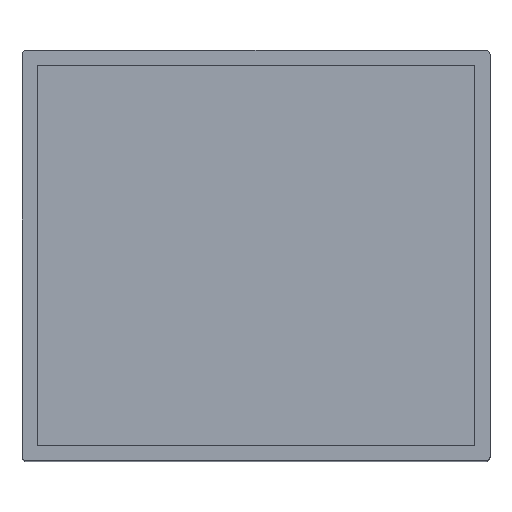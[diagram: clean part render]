
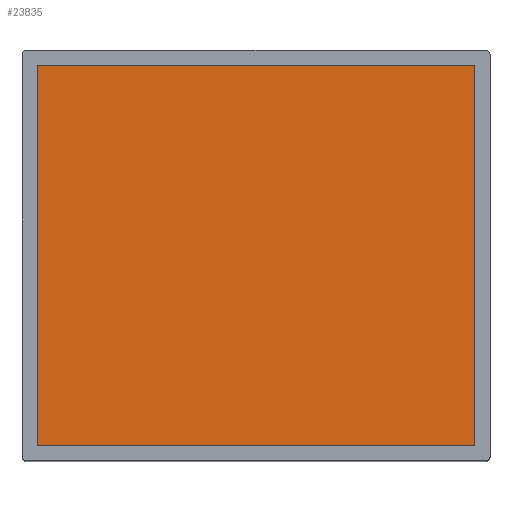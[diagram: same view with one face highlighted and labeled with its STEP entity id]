
A CAD part, top view. The second image highlights one B-rep face of the part: STEP entity #23835.
In plain terms, the highlighted planar face has unit normal (0, 0, 1) as drawn and (0, 0, -1) by its records, which use the part's own axes.
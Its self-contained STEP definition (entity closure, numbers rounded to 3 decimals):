
#2001 = CARTESIAN_POINT ( 'NONE',  ( -14.5, 12.6, 0.4 ) ) ;
#2292 = DIRECTION ( 'NONE',  ( 1., 0., 0. ) ) ;
#4649 = ORIENTED_EDGE ( 'NONE', *, *, #6113, .T. ) ;
#4949 = VERTEX_POINT ( 'NONE', #21580 ) ;
#6113 = EDGE_CURVE ( 'NONE', #6935, #27292, #10804, .T. ) ;
#6935 = VERTEX_POINT ( 'NONE', #18174 ) ;
#8601 = ORIENTED_EDGE ( 'NONE', *, *, #9858, .T. ) ;
#9858 = EDGE_CURVE ( 'NONE', #4949, #6935, #20373, .T. ) ;
#10435 = CARTESIAN_POINT ( 'NONE',  ( -14.5, 12.6, 0.4 ) ) ;
#10804 = LINE ( 'NONE', #22399, #16329 ) ;
#11672 = CARTESIAN_POINT ( 'NONE',  ( 14.5, 12.6, 0.4 ) ) ;
#12574 = DIRECTION ( 'NONE',  ( 1., 0., 0. ) ) ;
#12625 = ORIENTED_EDGE ( 'NONE', *, *, #19391, .T. ) ;
#12794 = DIRECTION ( 'NONE',  ( 0., 1., 0. ) ) ;
#12899 = VERTEX_POINT ( 'NONE', #2001 ) ;
#13851 = CARTESIAN_POINT ( 'NONE',  ( 14.5, -12.6, 0.4 ) ) ;
#14099 = VECTOR ( 'NONE', #23126, 1000. ) ;
#15245 = ORIENTED_EDGE ( 'NONE', *, *, #21790, .T. ) ;
#16329 = VECTOR ( 'NONE', #24750, 1000. ) ;
#18174 = CARTESIAN_POINT ( 'NONE',  ( 14.5, -12.6, 0.4 ) ) ;
#19391 = EDGE_CURVE ( 'NONE', #12899, #4949, #23080, .T. ) ;
#19606 = CARTESIAN_POINT ( 'NONE',  ( 14.5, 12.6, 0.4 ) ) ;
#19826 = EDGE_LOOP ( 'NONE', ( #8601, #4649, #15245, #12625 ) ) ;
#20373 = LINE ( 'NONE', #13851, #14099 ) ;
#21580 = CARTESIAN_POINT ( 'NONE',  ( 14.5, 12.6, 0.4 ) ) ;
#21746 = FACE_OUTER_BOUND ( 'NONE', #19826, .T. ) ;
#21790 = EDGE_CURVE ( 'NONE', #27292, #12899, #29901, .T. ) ;
#22399 = CARTESIAN_POINT ( 'NONE',  ( -14.5, -12.6, 0.4 ) ) ;
#22877 = AXIS2_PLACEMENT_3D ( 'NONE', #11672, #23423, #2292 ) ;
#23080 = LINE ( 'NONE', #19606, #28582 ) ;
#23126 = DIRECTION ( 'NONE',  ( 0., -1., 0. ) ) ;
#23423 = DIRECTION ( 'NONE',  ( 0., 0., 1. ) ) ;
#23835 = ADVANCED_FACE ( 'NONE', ( #21746 ), #30496, .F. ) ;
#24503 = CARTESIAN_POINT ( 'NONE',  ( -14.5, -12.6, 0.4 ) ) ;
#24750 = DIRECTION ( 'NONE',  ( -1., 0., 0. ) ) ;
#27292 = VERTEX_POINT ( 'NONE', #24503 ) ;
#28582 = VECTOR ( 'NONE', #12574, 1000. ) ;
#29171 = VECTOR ( 'NONE', #12794, 1000. ) ;
#29901 = LINE ( 'NONE', #10435, #29171 ) ;
#30496 = PLANE ( 'NONE',  #22877 ) ;
